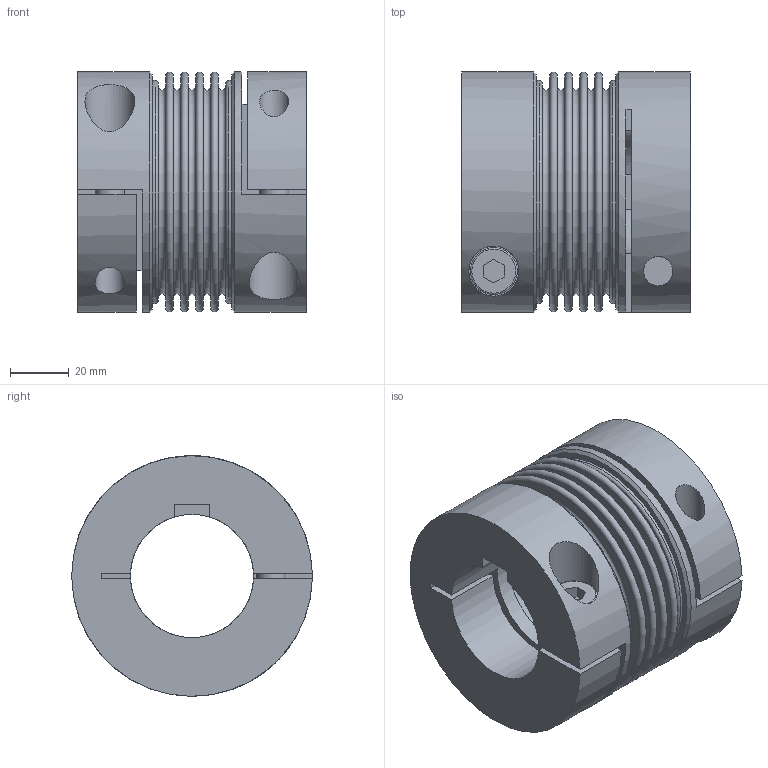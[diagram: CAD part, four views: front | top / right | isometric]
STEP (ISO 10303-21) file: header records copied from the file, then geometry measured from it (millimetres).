
FILE_DESCRIPTION(/* description */ ('STEP AP214'),/* implementation_level */ '2;1');
FILE_NAME(/* name */ 'C:\Diequa Files\DieQua Coupling\BCC\STP\BCC.150.#.#.stp',/* time_stamp */ '2018-11-20T10:56:52-06:00',/* author */ ('DiequaCAD'),/* organization */ (''),/* preprocessor_version */ 'ST-DEVELOPER v17.2',/* originating_system */ 'Autodesk Inventor 2019',/* authorisation */ ' ');
FILE_SCHEMA (('AUTOMOTIVE_DESIGN { 1 0 10303 214 3 1 1 }'));
Length unit declared in the file: millimetre
Products named in the file (1): BKC_150_42_PFN_42_PFN_60
Bounding box: 78 x 82 x 82 mm (x, y, z)
Volume: 210509.2 mm3; surface area: 68100.9 mm2
Topology: 1 solids, 1 shells, 88 faces, 215 edges, 149 vertices
Faces by surface type: plane 56, cylinder 17, torus 13, cone 2
Full cylindrical faces by diameter (mm): 10 x4, 16 x2, 17 x2, 68 x1, 76 x2, 82 x2
Entity records: 2851 total; most frequent: CARTESIAN_POINT 604, DIRECTION 483, ORIENTED_EDGE 430, EDGE_CURVE 215, AXIS2_PLACEMENT_3D 186, VERTEX_POINT 149, EDGE_LOOP 114, LINE 111
